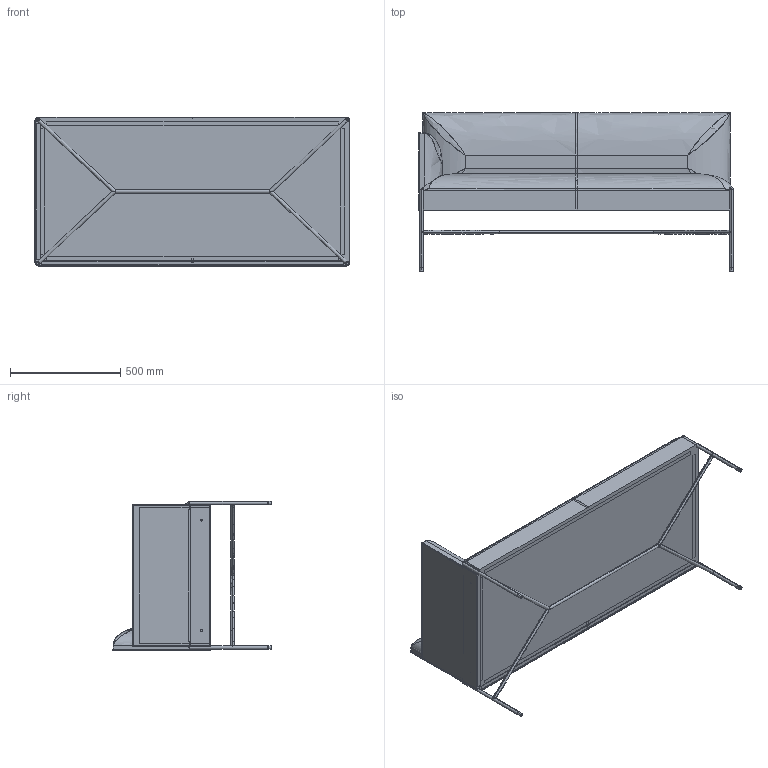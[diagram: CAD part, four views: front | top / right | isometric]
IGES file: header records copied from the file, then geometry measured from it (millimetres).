
Start section: SolidWorks IGES file using analytic representation for surfaces
Global section: file name: W:\design\GORDON GUILLAUMIER\Chill-Out\modelli 3d aggiornati\divano M.IGS; native system: SolidWorks 2010; preprocessor: SolidWorks 2010; author: PC20; date: 140714.191641; units: millimetre
Bounding box: 1425 x 719.5 x 675.5 mm (x, y, z)
Surface area: 9788715.6 mm2 (no closed solid volume)
Topology: 0 solids, 0 shells, 694 faces, 17280 edges, 20347 vertices
Faces by surface type: bspline 399, revolution 295
